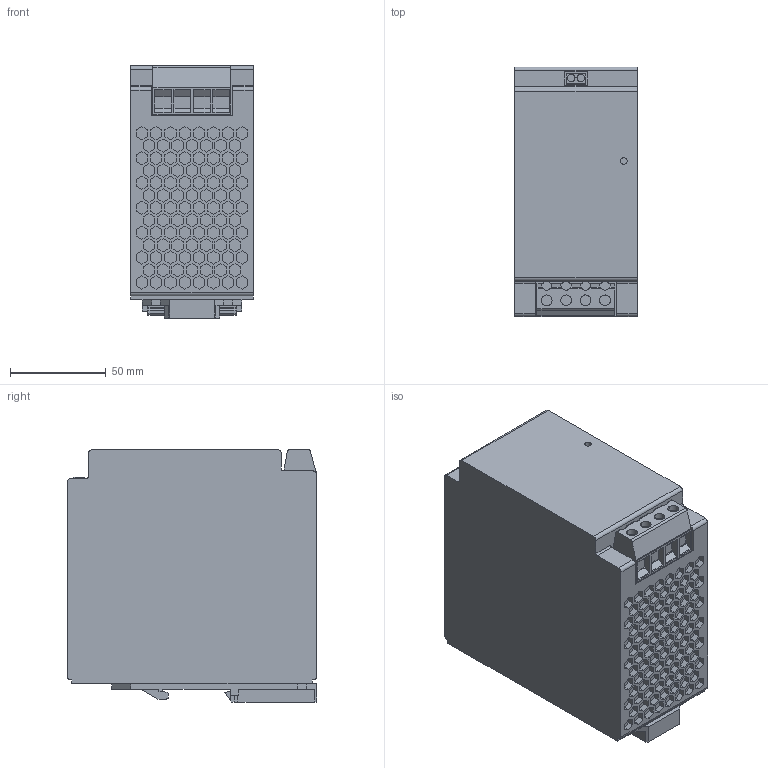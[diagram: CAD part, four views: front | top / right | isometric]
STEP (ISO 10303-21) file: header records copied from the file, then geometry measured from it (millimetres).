
FILE_DESCRIPTION(('SolidDesigner STEP Export'),'2;1');
FILE_NAME('2866213_QUINT_BUFFER_24DC_20_select.stp','2009-11-23T13:01:14',(''),(''),'CoCreate Modeling STEP processor for AP214 (Solid Model)','CoCreate Modeling 16.00A 16-Aug-2008 (C) Parametric Technology GmbH','');
FILE_SCHEMA(('AUTOMOTIVE_DESIGN { 1 0 10303 214 1 1 1 1 }'));
Length unit declared in the file: millimetre
Products named in the file (2): 2866213_QUINT_BUFFER_24DC_20_select
Assembly tree (1 placements, depth 2):
  2866213_QUINT_BUFFER_24DC_20_select
    2866213_QUINT_BUFFER_24DC_20_select
Bounding box: 64 x 130.4 x 131.75 mm (x, y, z)
Volume: 1003223.6 mm3; surface area: 83062.8 mm2
Topology: 1 solids, 1 shells, 1660 faces, 4306 edges, 2869 vertices
Faces by surface type: plane 1607, cylinder 53
Entity records: 62695 total; most frequent: CARTESIAN_POINT 8841, ORIENTED_EDGE 8612, DIRECTION 7570, EDGE_CURVE 4306, VECTOR 4166, LINE 4166, VERTEX_POINT 2869, EDGE_LOOP 1881
